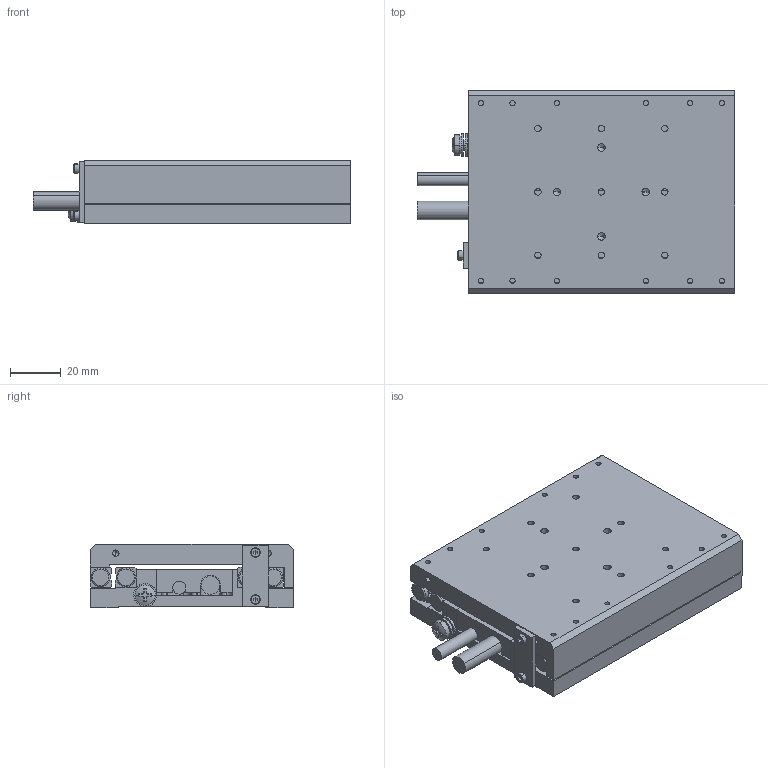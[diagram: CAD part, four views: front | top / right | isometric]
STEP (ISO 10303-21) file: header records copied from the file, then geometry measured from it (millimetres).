
FILE_DESCRIPTION (( 'STEP AP203' ), '1' );
FILE_NAME ('V-408.232020.STEP', '2017-06-27T10:19:29', ( 'test' ), ( '' ), 'SwSTEP 2.0', 'SolidWorks 2016', '' );
FILE_SCHEMA (( 'CONFIG_CONTROL_DESIGN' ));
Length unit declared in the file: millimetre
Products named in the file (1): V-408.232020
Bounding box: 125 x 80 x 25 mm (x, y, z)
Volume: 169008.7 mm3; surface area: 69054.2 mm2
Topology: 20 solids, 20 shells, 657 faces, 1618 edges, 1006 vertices
Faces by surface type: cylinder 282, plane 237, cone 108, torus 28, sphere 2
Entity records: 19521 total; most frequent: CARTESIAN_POINT 3742, DIRECTION 3436, ORIENTED_EDGE 3124, EDGE_CURVE 1562, AXIS2_PLACEMENT_3D 1380, VERTEX_POINT 990, EDGE_LOOP 808, CIRCLE 722
